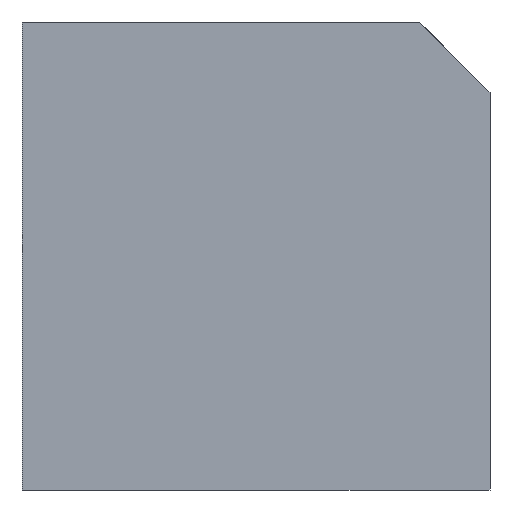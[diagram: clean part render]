
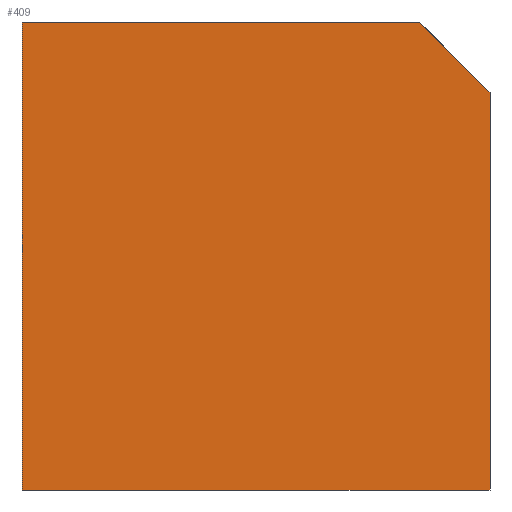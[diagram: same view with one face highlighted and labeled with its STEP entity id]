
A CAD part, left-side view. The second image highlights one B-rep face of the part: STEP entity #409.
In plain terms, the highlighted planar face has unit normal (-1, 0, 0).
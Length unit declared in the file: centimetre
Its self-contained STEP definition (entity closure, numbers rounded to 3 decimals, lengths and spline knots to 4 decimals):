
#22 = CARTESIAN_POINT ( 'NONE',  ( 0., 1000., 1000. ) ) ;
#26 = EDGE_CURVE ( 'NONE', #332, #77, #594, .T. ) ;
#35 = DIRECTION ( 'NONE',  ( 0., -1., 0. ) ) ;
#77 = VERTEX_POINT ( 'NONE', #149 ) ;
#92 = DIRECTION ( 'NONE',  ( 0., -1., 0. ) ) ;
#129 = CARTESIAN_POINT ( 'NONE',  ( 0., 0., 0. ) ) ;
#134 = VECTOR ( 'NONE', #35, 100. ) ;
#148 = ORIENTED_EDGE ( 'NONE', *, *, #777, .T. ) ;
#149 = CARTESIAN_POINT ( 'NONE',  ( 0., 150.3116, 1000. ) ) ;
#171 = DIRECTION ( 'NONE',  ( 0., 0.707, 0.707 ) ) ;
#220 = ORIENTED_EDGE ( 'NONE', *, *, #296, .T. ) ;
#240 = CARTESIAN_POINT ( 'NONE',  ( 0., 0., 849.6884 ) ) ;
#246 = CARTESIAN_POINT ( 'NONE',  ( 0., 0., 1000. ) ) ;
#253 = LINE ( 'NONE', #22, #660 ) ;
#260 = DIRECTION ( 'NONE',  ( 0., 0., -1. ) ) ;
#284 = EDGE_CURVE ( 'NONE', #332, #643, #253, .T. ) ;
#287 = VERTEX_POINT ( 'NONE', #240 ) ;
#295 = VECTOR ( 'NONE', #92, 100. ) ;
#296 = EDGE_CURVE ( 'NONE', #287, #77, #386, .T. ) ;
#311 = ORIENTED_EDGE ( 'NONE', *, *, #621, .F. ) ;
#332 = VERTEX_POINT ( 'NONE', #683 ) ;
#333 = CARTESIAN_POINT ( 'NONE',  ( 0., 1000., 1000. ) ) ;
#346 = VECTOR ( 'NONE', #897, 100. ) ;
#352 = DIRECTION ( 'NONE',  ( 1., 0., 0. ) ) ;
#386 = LINE ( 'NONE', #528, #500 ) ;
#408 = PLANE ( 'NONE',  #824 ) ;
#409 = ADVANCED_FACE ( 'NONE', ( #785 ), #408, .F. ) ;
#432 = VERTEX_POINT ( 'NONE', #129 ) ;
#462 = CARTESIAN_POINT ( 'NONE',  ( 0., 1000., 0. ) ) ;
#500 = VECTOR ( 'NONE', #171, 100. ) ;
#528 = CARTESIAN_POINT ( 'NONE',  ( 0., 150.3116, 1000. ) ) ;
#536 = LINE ( 'NONE', #246, #346 ) ;
#594 = LINE ( 'NONE', #816, #295 ) ;
#616 = LINE ( 'NONE', #905, #134 ) ;
#621 = EDGE_CURVE ( 'NONE', #287, #432, #536, .T. ) ;
#643 = VERTEX_POINT ( 'NONE', #462 ) ;
#660 = VECTOR ( 'NONE', #825, 100. ) ;
#674 = EDGE_LOOP ( 'NONE', ( #311, #220, #798, #736, #148 ) ) ;
#683 = CARTESIAN_POINT ( 'NONE',  ( 0., 1000., 1000. ) ) ;
#736 = ORIENTED_EDGE ( 'NONE', *, *, #284, .T. ) ;
#777 = EDGE_CURVE ( 'NONE', #643, #432, #616, .T. ) ;
#785 = FACE_OUTER_BOUND ( 'NONE', #674, .T. ) ;
#798 = ORIENTED_EDGE ( 'NONE', *, *, #26, .F. ) ;
#816 = CARTESIAN_POINT ( 'NONE',  ( 0., 1000., 1000. ) ) ;
#824 = AXIS2_PLACEMENT_3D ( 'NONE', #333, #352, #260 ) ;
#825 = DIRECTION ( 'NONE',  ( 0., 0., -1. ) ) ;
#897 = DIRECTION ( 'NONE',  ( 0., 0., -1. ) ) ;
#905 = CARTESIAN_POINT ( 'NONE',  ( 0., 1000., 0. ) ) ;
